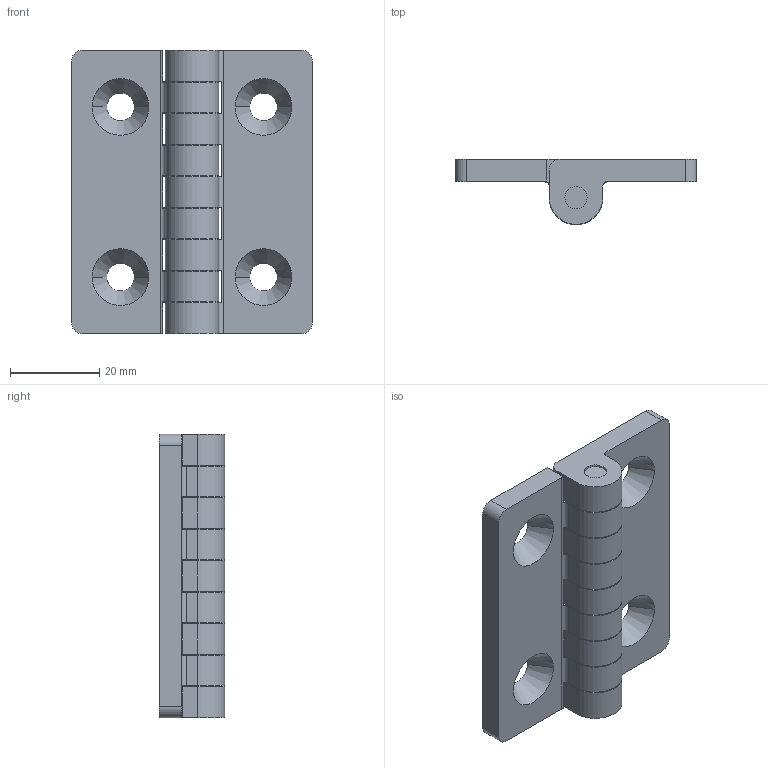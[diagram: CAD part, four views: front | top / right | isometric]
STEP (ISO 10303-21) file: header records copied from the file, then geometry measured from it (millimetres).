
FILE_DESCRIPTION((''),'2;1');
FILE_NAME('6535.stp','2012-03-29T10:57:35',(''),(''),'Mechanical Desktop 2006','Mechanical Desktop 2006',', , ');
FILE_SCHEMA(('CONFIG_CONTROL_DESIGN'));
Length unit declared in the file: millimetre
Products named in the file (3): 6535; TEIL1; TEIL2
Assembly tree (2 placements, depth 2):
  6535
    TEIL1
    TEIL2
Bounding box: 54 x 14.6 x 63.5 mm (x, y, z)
Volume: 21744.1 mm3; surface area: 12788.7 mm2
Topology: 2 solids, 2 shells, 251 faces, 655 edges, 410 vertices
Faces by surface type: cylinder 140, plane 55, torus 48, cone 8
Entity records: 8456 total; most frequent: CARTESIAN_POINT 1847, DIRECTION 1507, ORIENTED_EDGE 1310, EDGE_CURVE 655, AXIS2_PLACEMENT_3D 614, VERTEX_POINT 410, CIRCLE 360, VECTOR 279
